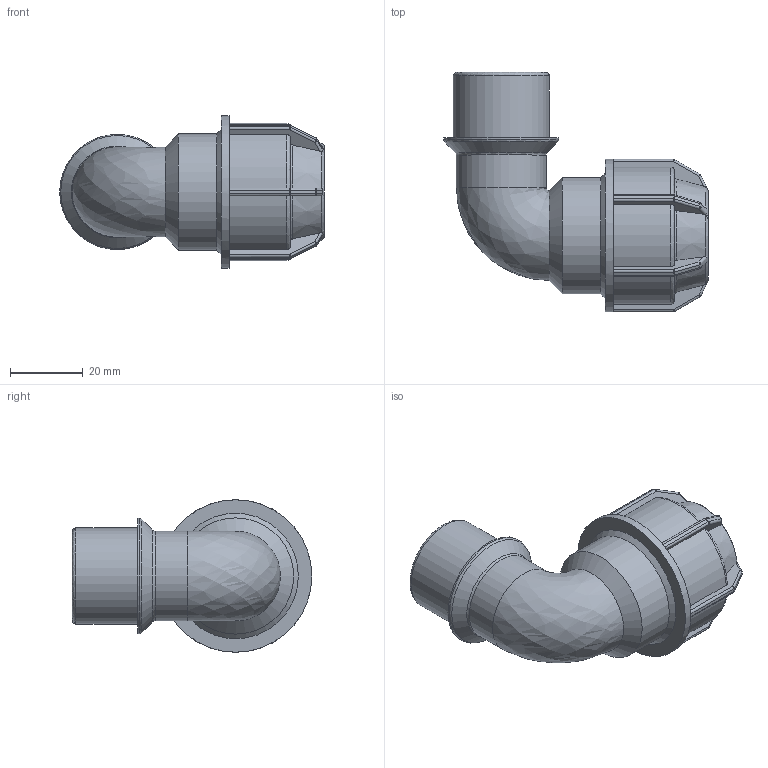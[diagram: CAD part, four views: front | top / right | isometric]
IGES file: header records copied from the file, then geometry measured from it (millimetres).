
Global section: file name: 148500020007.ipt; native system: Autodesk Inventor 2015; preprocessor: unknown; author: KIM; date: 20180409.131242; units: millimetre
Bounding box: 72.86 x 66 x 42 mm (x, y, z)
Volume: 40126.7 mm3; surface area: 17556.2 mm2
Topology: 1 solids, 1 shells, 213 faces, 509 edges, 298 vertices
Faces by surface type: plane 98, cylinder 59, sphere 24, revolution 23, cone 9
Full cylindrical faces by diameter (mm): 24.722 x1, 26.441 x1, 31.729 x1, 32 x1, 42 x1
